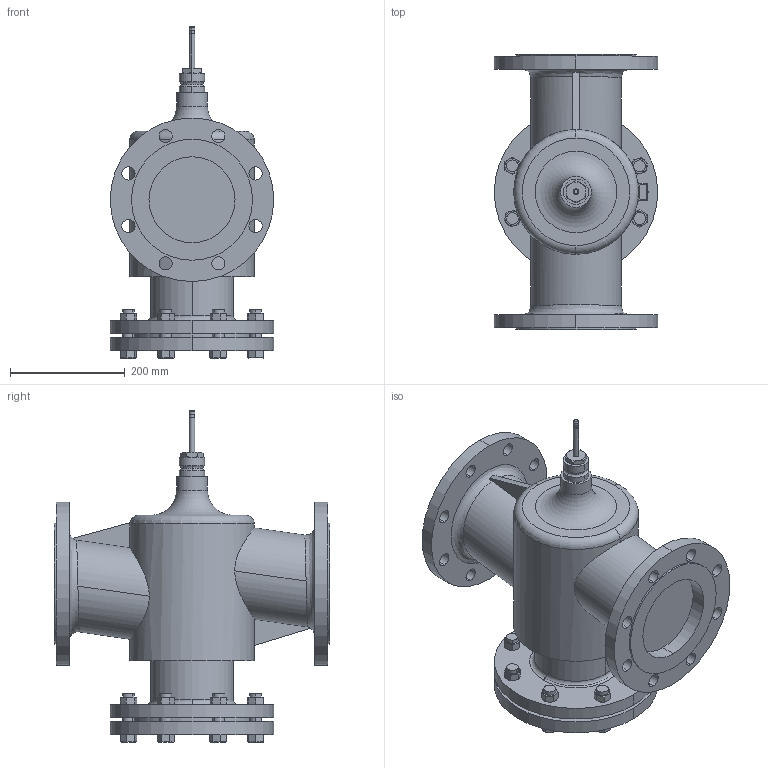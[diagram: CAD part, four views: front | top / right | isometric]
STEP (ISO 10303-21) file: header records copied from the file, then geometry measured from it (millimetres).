
FILE_DESCRIPTION(/* description */ (''),/* implementation_level */ '2;1');
FILE_NAME(/* name */ 'RAS_021812_00.stp',/* time_stamp */ '2012-11-07T08:12:25+01:00',/* author */ (''),/* organization */ (''),/* preprocessor_version */ 'ST-DEVELOPER v11',/* originating_system */ 'SIEMENS UGS NX 6.0',/* authorisation */ '');
FILE_SCHEMA (('AUTOMOTIVE_DESIGN { 1 0 10303 214 1 1 1 1 }'));
Length unit declared in the file: millimetre
Products named in the file (1): RontB30C3sxu
Bounding box: 285 x 480 x 579 mm (x, y, z)
Volume: 20480828.4 mm3; surface area: 966735.9 mm2
Topology: 1 solids, 2 shells, 424 faces, 1051 edges, 679 vertices
Faces by surface type: plane 172, cylinder 131, cone 102, torus 11, bspline 6, sphere 2
Full cylindrical faces by diameter (mm): 54 x1
Entity records: 13290 total; most frequent: CARTESIAN_POINT 3780, ORIENTED_EDGE 2084, DIRECTION 1923, EDGE_CURVE 1042, AXIS2_PLACEMENT_3D 802, VERTEX_POINT 676, EDGE_LOOP 526, ADVANCED_FACE 424
